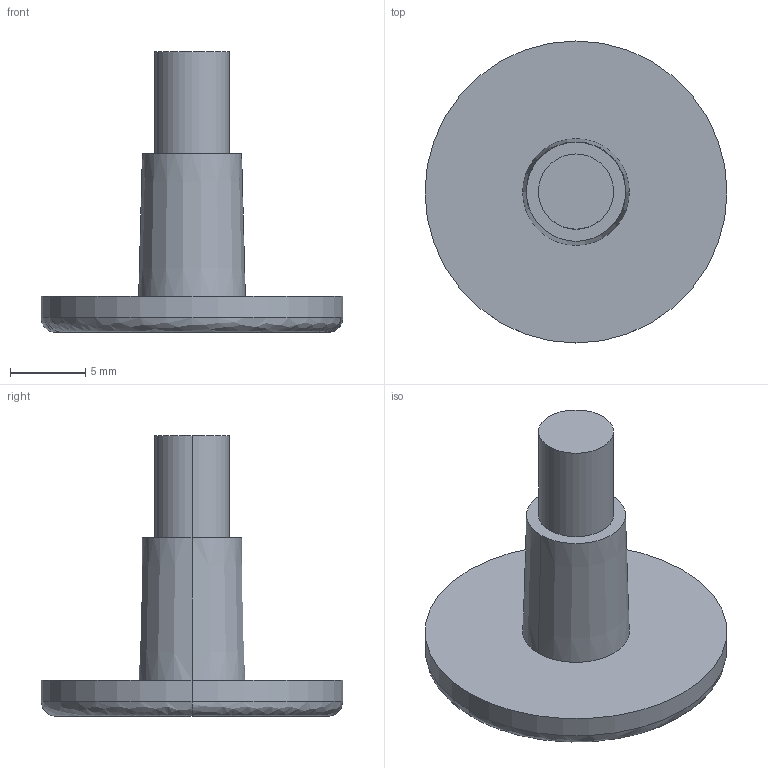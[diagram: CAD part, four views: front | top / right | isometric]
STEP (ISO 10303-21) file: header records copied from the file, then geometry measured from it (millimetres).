
FILE_DESCRIPTION (( 'STEP AP214' ), '1' );
FILE_NAME ('FGEC 20.step', '2017-04-05T07:37:08', ( '' ), ( '' ), 'SwSTEP 2.0', 'SolidWorks 2015', '' );
FILE_SCHEMA (( 'AUTOMOTIVE_DESIGN' ));
Length unit declared in the file: millimetre
Products named in the file (1): FGEC 20
Bounding box: 20.1 x 20.1 x 18.7 mm (x, y, z)
Volume: 1232.2 mm3; surface area: 1064.6 mm2
Topology: 1 solids, 1 shells, 12 faces, 22 edges, 14 vertices
Faces by surface type: cylinder 4, plane 4, bspline 2, cone 2
Entity records: 360 total; most frequent: CARTESIAN_POINT 85, DIRECTION 56, ORIENTED_EDGE 44, AXIS2_PLACEMENT_3D 25, EDGE_CURVE 22, VERTEX_POINT 14, CIRCLE 14, EDGE_LOOP 14
